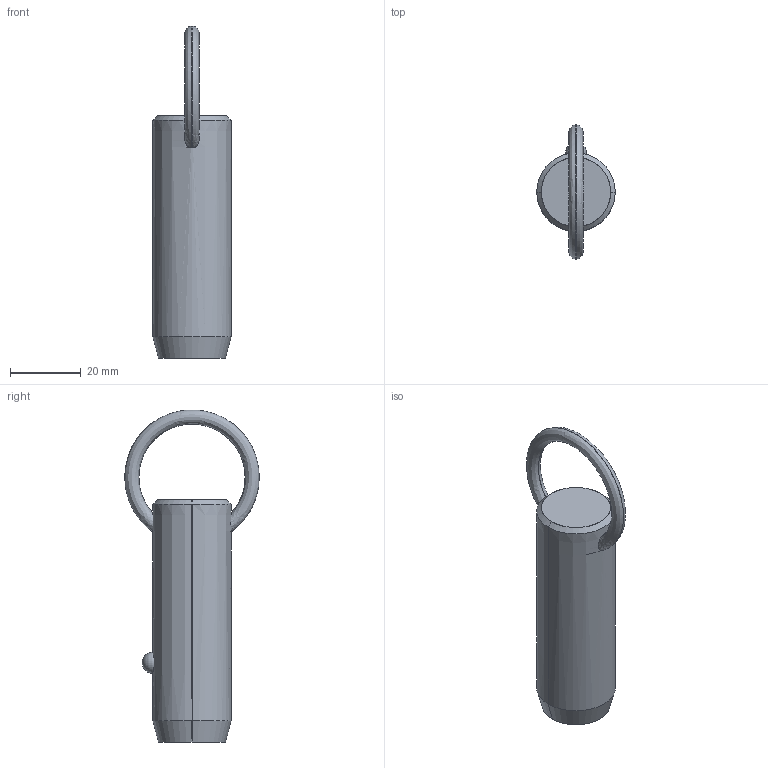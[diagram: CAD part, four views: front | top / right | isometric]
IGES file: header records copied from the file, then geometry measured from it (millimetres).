
Start section: SolidWorks IGES file using analytic representation for surfaces
Global section: file name: C:\Users\liam_\OneDrive\Documents\WORK\Work for WixRoyd\Job Files\J-00019 - Matt Davis CAD Checking\04. CAD Drawings\automotion20190605\P1250.2_v2\P1250.2_v2_20190729_IGES\P1250.087-120.igs; native system: SolidWorks 2017; preprocessor: SolidWorks 2017; author: liam_; date: 190730.000426; units: millimetre
Bounding box: 22.2 x 38.1 x 93.98 mm (x, y, z)
Surface area: 6428.2 mm2 (no closed solid volume)
Topology: 0 solids, 0 shells, 12 faces, 302 edges, 300 vertices
Faces by surface type: revolution 8, bspline 4
